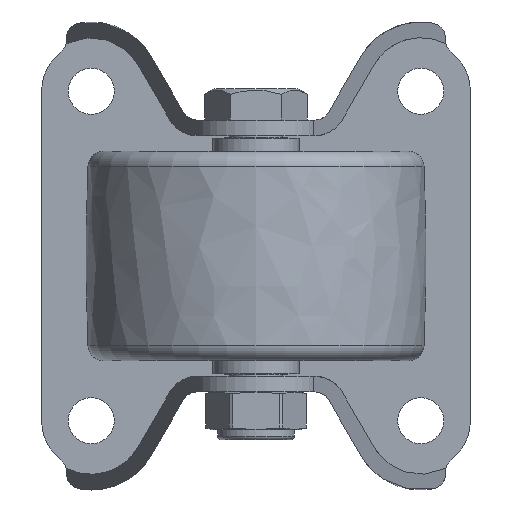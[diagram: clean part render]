
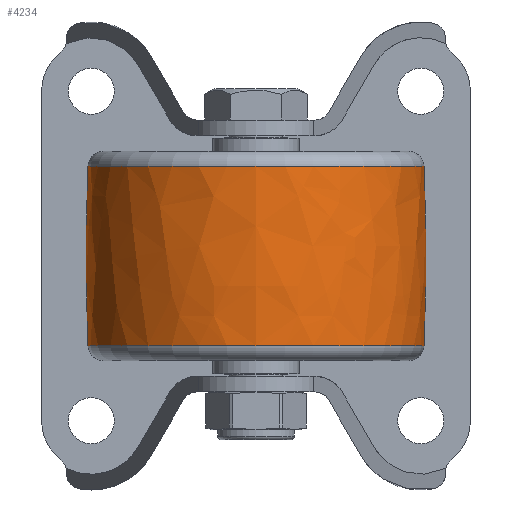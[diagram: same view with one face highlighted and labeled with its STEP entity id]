
A CAD part, front view. The second image highlights one B-rep face of the part: STEP entity #4234.
In plain terms, the highlighted free-form (B-spline) face has degree [3, 3] with [7, 4] control points.
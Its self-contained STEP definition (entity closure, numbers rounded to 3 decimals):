
#3992=CARTESIAN_POINT('',(0.,-367.75,0.));
#3993=DIRECTION('',(0.,0.,1.));
#3994=DIRECTION('',(0.043,0.999,0.));
#3995=AXIS2_PLACEMENT_3D('',#3992,#3993,#3994);
#3997=CARTESIAN_POINT('',(0.,367.75,0.));
#3998=DIRECTION('',(0.,0.,-1.));
#3999=DIRECTION('',(0.043,-0.999,0.));
#4000=AXIS2_PLACEMENT_3D('',#3997,#3998,#3999);
#4002=CARTESIAN_POINT('',(17.128,0.,0.));
#4003=DIRECTION('',(-1.,0.,0.));
#4004=DIRECTION('',(0.,1.,0.));
#4005=AXIS2_PLACEMENT_3D('',#4002,#4003,#4004);
#4017=CARTESIAN_POINT('',(-17.128,0.,0.));
#4018=DIRECTION('',(-1.,0.,0.));
#4019=DIRECTION('',(0.,1.,0.));
#4020=AXIS2_PLACEMENT_3D('',#4017,#4018,#4019);
#4125=CARTESIAN_POINT('',(17.128,32.133,0.));
#4126=CARTESIAN_POINT('',(-17.128,32.133,0.));
#4127=VERTEX_POINT('',#4125);
#4128=VERTEX_POINT('',#4126);
#4141=CARTESIAN_POINT('',(17.128,-32.133,0.));
#4142=CARTESIAN_POINT('',(-17.128,-32.133,0.));
#4143=VERTEX_POINT('',#4141);
#4144=VERTEX_POINT('',#4142);
#4197=CARTESIAN_POINT('',(-17.813,-32.04,
2.016));
#4198=CARTESIAN_POINT('',(-5.942,-32.568,
2.049));
#4199=CARTESIAN_POINT('',(5.942,-32.568,2.049));
#4200=CARTESIAN_POINT('',(17.813,-32.04,2.016));
#4201=CARTESIAN_POINT('',(-17.813,-33.281,
-17.702));
#4202=CARTESIAN_POINT('',(-5.942,-33.829,
-17.993));
#4203=CARTESIAN_POINT('',(5.942,-33.829,
-17.993));
#4204=CARTESIAN_POINT('',(17.813,-33.281,
-17.702));
#4205=CARTESIAN_POINT('',(-17.813,-19.756,
-32.103));
#4206=CARTESIAN_POINT('',(-5.942,-20.082,
-32.632));
#4207=CARTESIAN_POINT('',(5.942,-20.082,
-32.632));
#4208=CARTESIAN_POINT('',(17.813,-19.756,
-32.103));
#4209=CARTESIAN_POINT('',(-17.813,0.,-32.103));
#4210=CARTESIAN_POINT('',(-5.942,0.,
-32.632));
#4211=CARTESIAN_POINT('',(5.942,0.,
-32.632));
#4212=CARTESIAN_POINT('',(17.813,0.,
-32.103));
#4213=CARTESIAN_POINT('',(-17.813,19.756,
-32.103));
#4214=CARTESIAN_POINT('',(-5.942,20.082,
-32.632));
#4215=CARTESIAN_POINT('',(5.942,20.082,-32.632));
#4216=CARTESIAN_POINT('',(17.813,19.756,-32.103));
#4217=CARTESIAN_POINT('',(-17.813,33.281,
-17.702));
#4218=CARTESIAN_POINT('',(-5.942,33.829,
-17.993));
#4219=CARTESIAN_POINT('',(5.942,33.829,-17.993));
#4220=CARTESIAN_POINT('',(17.813,33.281,-17.702));
#4221=CARTESIAN_POINT('',(-17.813,32.04,2.016));
#4222=CARTESIAN_POINT('',(-5.942,32.568,2.049));
#4223=CARTESIAN_POINT('',(5.942,32.568,2.049));
#4224=CARTESIAN_POINT('',(17.813,32.04,2.016));
#4225=(BOUNDED_SURFACE()B_SPLINE_SURFACE(3,3,((#4197,#4198,#4199,#4200),(#4201,
#4202,#4203,#4204),(#4205,#4206,#4207,#4208),(#4209,#4210,#4211,#4212),(#4213,
#4214,#4215,#4216),(#4217,#4218,#4219,#4220),(#4221,#4222,#4223,#4224)),
.UNSPECIFIED.,.F.,.F.,.F.)B_SPLINE_SURFACE_WITH_KNOTS((4,3,4),(4,4),(0.,1.,
2.),(0.,1.),.UNSPECIFIED.)GEOMETRIC_REPRESENTATION_ITEM()RATIONAL_B_SPLINE_SURFACE(((1.188,1.187,1.187,1.188),(
0.938,0.937,0.937,0.938),(
0.938,0.937,0.937,0.938),(
1.188,1.187,1.187,1.188),(
0.938,0.937,0.937,0.938),(
0.938,0.937,0.937,0.938),(
1.188,1.187,1.187,1.188)))REPRESENTATION_ITEM('')SURFACE());
#4226=ORIENTED_EDGE('',*,*,#4186,.T.);
#4228=ORIENTED_EDGE('',*,*,#4227,.T.);
#4229=ORIENTED_EDGE('',*,*,#4190,.F.);
#4231=ORIENTED_EDGE('',*,*,#4230,.F.);
#4232=EDGE_LOOP('',(#4226,#4228,#4229,#4231));
#4233=FACE_OUTER_BOUND('',#4232,.F.);
#3996=CIRCLE('',#3995,400.25);
#4001=CIRCLE('',#4000,400.25);
#4006=CIRCLE('',#4005,32.133);
#4021=CIRCLE('',#4020,32.133);
#4186=EDGE_CURVE('',#4127,#4128,#3996,.T.);
#4190=EDGE_CURVE('',#4143,#4144,#4001,.T.);
#4227=EDGE_CURVE('',#4128,#4144,#4021,.T.);
#4230=EDGE_CURVE('',#4127,#4143,#4006,.T.);
#4234=ADVANCED_FACE('',(#4233),#4225,.T.);
